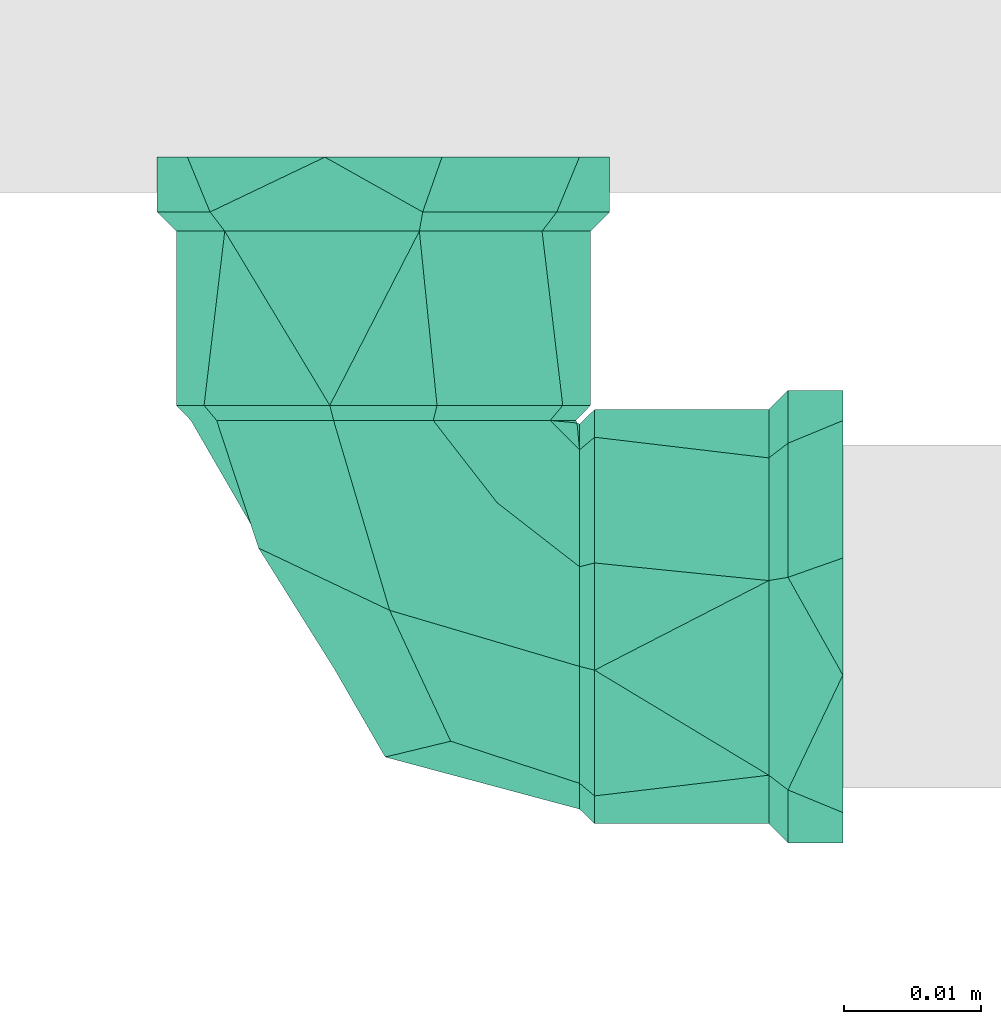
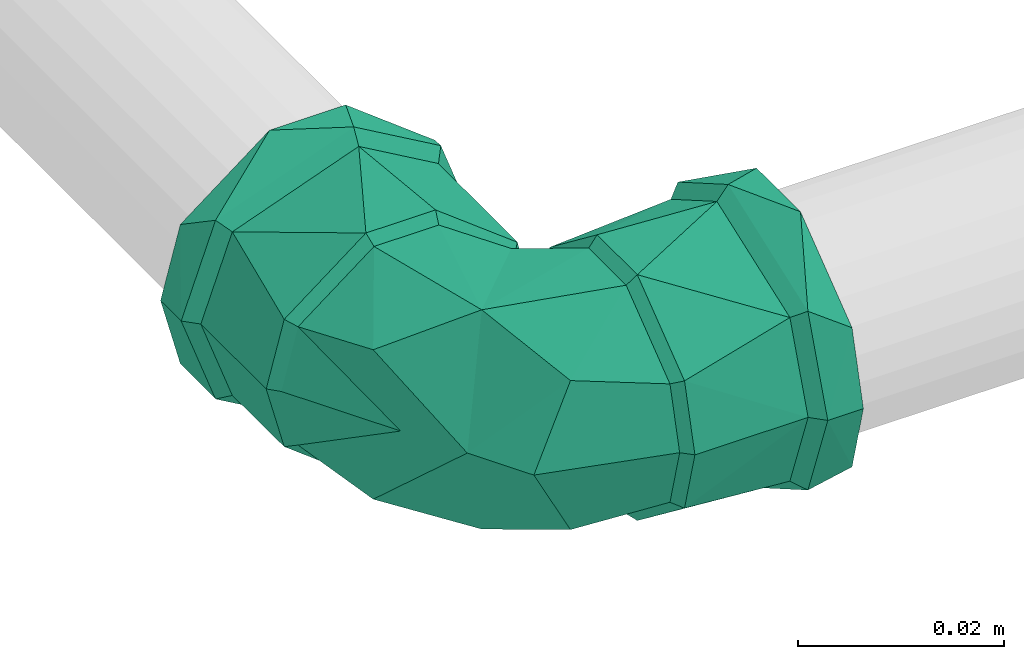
# One storey, part 321 of 589: 1 flow fitting.
"""IFC2X3 building model written with IfcOpenShell, lengths in millimetres."""

from ifc_helpers import new_model, entity, si_unit, converted_unit, derived_unit, direction, frame, origin, place, context, subcontext, project, spatial, faceted_brep, source, transform, mapped, material, type_object, type_shapes, element, save


model = new_model("IFC2X3")

# Units and contexts
model_context = context("Model", 3, precision=0.01, world=origin(), true_north=direction((6.123031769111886e-17, 1.0)))
body_context = subcontext(model_context, "Body", "Model", "MODEL_VIEW")
ifc_project = project(units=[si_unit("LENGTHUNIT", "METRE", prefix="MILLI"), si_unit("AREAUNIT", "SQUARE_METRE"), si_unit("VOLUMEUNIT", "CUBIC_METRE"), converted_unit("PLANEANGLEUNIT", "DEGREE", entity("IfcRatioMeasure", 0.017453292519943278), si_unit("PLANEANGLEUNIT", "RADIAN"), dimensions=[0, 0, 0, 0, 0, 0, 0]), si_unit("MASSUNIT", "GRAM", prefix="KILO"), derived_unit("MASSDENSITYUNIT", [(si_unit("MASSUNIT", "GRAM", prefix="KILO"), 1), (si_unit("LENGTHUNIT", "METRE"), -3)]), derived_unit("IONCONCENTRATIONUNIT", [(si_unit("MASSUNIT", "GRAM", prefix="KILO"), 1), (si_unit("LENGTHUNIT", "METRE"), -3)]), derived_unit("MOMENTOFINERTIAUNIT", [(si_unit("LENGTHUNIT", "METRE"), 4)]), si_unit("TIMEUNIT", "SECOND"), si_unit("FREQUENCYUNIT", "HERTZ"), si_unit("THERMODYNAMICTEMPERATUREUNIT", "DEGREE_CELSIUS"), derived_unit("THERMALTRANSMITTANCEUNIT", [(si_unit("MASSUNIT", "GRAM", prefix="KILO"), 1), (si_unit("THERMODYNAMICTEMPERATUREUNIT", "KELVIN"), -1), (si_unit("TIMEUNIT", "SECOND"), -3)]), derived_unit("THERMALCONDUCTANCEUNIT", [(si_unit("MASSUNIT", "GRAM", prefix="KILO"), 1), (si_unit("THERMODYNAMICTEMPERATUREUNIT", "KELVIN"), -1), (si_unit("TIMEUNIT", "SECOND"), -3), (si_unit("LENGTHUNIT", "METRE"), 1)]), derived_unit("VOLUMETRICFLOWRATEUNIT", [(si_unit("LENGTHUNIT", "METRE"), 3), (si_unit("TIMEUNIT", "SECOND"), -1)]), derived_unit("MASSFLOWRATEUNIT", [(si_unit("MASSUNIT", "GRAM", prefix="KILO"), 1), (si_unit("TIMEUNIT", "SECOND"), -1)]), derived_unit("ROTATIONALFREQUENCYUNIT", [(si_unit("TIMEUNIT", "SECOND"), -1)]), si_unit("ELECTRICCURRENTUNIT", "AMPERE"), si_unit("ELECTRICVOLTAGEUNIT", "VOLT"), si_unit("POWERUNIT", "WATT"), si_unit("FORCEUNIT", "NEWTON", prefix="KILO"), si_unit("ILLUMINANCEUNIT", "LUX"), si_unit("LUMINOUSFLUXUNIT", "LUMEN"), si_unit("LUMINOUSINTENSITYUNIT", "CANDELA"), derived_unit("USERDEFINED", [(si_unit("MASSUNIT", "GRAM", prefix="KILO"), -1), (si_unit("LENGTHUNIT", "METRE"), -2), (si_unit("TIMEUNIT", "SECOND"), 3), (si_unit("LUMINOUSFLUXUNIT", "LUMEN"), 1)]), derived_unit("USERDEFINED", [(si_unit("MASSUNIT", "GRAM", prefix="KILO"), 1), (si_unit("TIMEUNIT", "SECOND"), -3), (si_unit("LENGTHUNIT", "METRE"), 3), (si_unit("ELECTRICCURRENTUNIT", "AMPERE"), -2)]), derived_unit("SOUNDPOWERUNIT", [(si_unit("MASSUNIT", "GRAM", prefix="KILO"), 1), (si_unit("TIMEUNIT", "SECOND"), -3), (si_unit("LENGTHUNIT", "METRE"), 2)]), derived_unit("SOUNDPRESSUREUNIT", [(si_unit("MASSUNIT", "GRAM", prefix="KILO"), 1), (si_unit("LENGTHUNIT", "METRE"), -1), (si_unit("TIMEUNIT", "SECOND"), -2)]), derived_unit("LINEARVELOCITYUNIT", [(si_unit("LENGTHUNIT", "METRE"), 1), (si_unit("TIMEUNIT", "SECOND"), -1)]), si_unit("PRESSUREUNIT", "PASCAL"), derived_unit("USERDEFINED", [(si_unit("MASSUNIT", "GRAM", prefix="KILO"), 1), (si_unit("LENGTHUNIT", "METRE"), -2), (si_unit("TIMEUNIT", "SECOND"), -2)]), derived_unit("LINEARFORCEUNIT", [(si_unit("MASSUNIT", "GRAM", prefix="KILO"), 1), (si_unit("TIMEUNIT", "SECOND"), -2)]), derived_unit("PLANARFORCEUNIT", [(si_unit("MASSUNIT", "GRAM", prefix="KILO"), 1), (si_unit("LENGTHUNIT", "METRE"), -1), (si_unit("TIMEUNIT", "SECOND"), -2)]), derived_unit("SPECIFICHEATCAPACITYUNIT", [(si_unit("THERMODYNAMICTEMPERATUREUNIT", "KELVIN"), -1), (si_unit("LENGTHUNIT", "METRE"), 2), (si_unit("TIMEUNIT", "SECOND"), -2)]), derived_unit("HEATINGVALUEUNIT", [(si_unit("LENGTHUNIT", "METRE"), 2), (si_unit("TIMEUNIT", "SECOND"), -2)]), derived_unit("VAPORPERMEABILITYUNIT", [(si_unit("LENGTHUNIT", "METRE"), -1), (si_unit("TIMEUNIT", "SECOND"), 1)]), derived_unit("DYNAMICVISCOSITYUNIT", [(si_unit("MASSUNIT", "GRAM", prefix="KILO"), 1), (si_unit("TIMEUNIT", "SECOND"), -1), (si_unit("LENGTHUNIT", "METRE"), -1)]), derived_unit("THERMALEXPANSIONCOEFFICIENTUNIT", [(si_unit("THERMODYNAMICTEMPERATUREUNIT", "KELVIN"), -1)]), derived_unit("MODULUSOFELASTICITYUNIT", [(si_unit("MASSUNIT", "GRAM", prefix="KILO"), 1), (si_unit("LENGTHUNIT", "METRE"), -1), (si_unit("TIMEUNIT", "SECOND"), -2)]), derived_unit("ISOTHERMALMOISTURECAPACITYUNIT", [(si_unit("LENGTHUNIT", "METRE"), 3), (si_unit("MASSUNIT", "GRAM", prefix="KILO"), -1)]), derived_unit("MOISTUREDIFFUSIVITYUNIT", [(si_unit("TIMEUNIT", "SECOND"), -1), (si_unit("LENGTHUNIT", "METRE"), 2)])], contexts=[model_context])

# Site, building, storey
site_placement = place(None, origin())
site = spatial("IfcSite", under=ifc_project, at=site_placement, Name="Default", CompositionType="ELEMENT")
building_placement = place(site_placement, origin())
building = spatial("IfcBuilding", under=site, at=building_placement, CompositionType="ELEMENT")
storey_placement = place(building_placement, frame((0.0, 0.0, 100.0)))
storey = spatial("IfcBuildingStorey", under=building, at=storey_placement, Name="TÉRREO", CompositionType="ELEMENT", Elevation=100.0)

# Flow fitting
ifc_material = material(Name="PVC Marrom")
pipe_fitting_type = type_object("IfcPipeFittingType", Name="PVC Marrom Soldável_Joelho 45°_90°_Rodrigo MEP:Joelho", PredefinedType="NOTDEFINED", material=ifc_material)
shared_shape = source(origin(), body_context, "Body", "Brep", [
    faceted_brep([(3.908167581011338, 15.40000000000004, 14.585479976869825), (13.076983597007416, 15.40000000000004, 7.549999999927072), (15.099999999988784, 15.40000000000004, 0.0), (13.076983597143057, 15.40000000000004, -7.55000000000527), (3.9081675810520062, 15.40000000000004, -14.585479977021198), (-3.9081675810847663, 15.40000000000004, -14.585479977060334), (-13.076983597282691, 15.40000000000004, -7.550000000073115), (-15.100000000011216, 15.40000000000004, 0.0), (-13.076983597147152, 15.40000000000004, 7.549999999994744), (-3.908167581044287, 15.40000000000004, 14.585479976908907), (-3.633819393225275, 14.30000000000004, 13.561598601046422), (-12.158996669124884, 14.30000000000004, 7.0199999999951), (-14.040000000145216, 14.30000000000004, 0.0), (-12.158996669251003, 14.30000000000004, -7.020000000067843), (-3.6338193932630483, 14.30000000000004, -13.561598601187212), (3.6338193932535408, 14.30000000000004, -13.561598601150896), (12.158996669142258, 14.30000000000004, -7.020000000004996), (14.039999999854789, 14.30000000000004, 0.0), (12.158996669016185, 14.30000000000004, 7.0199999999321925), (3.6338193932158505, 14.30000000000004, 13.561598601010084)], [[[0, 1, 2, 3, 4, 5, 6, 7, 8, 9]], [[10, 11, 12, 13, 14, 15, 16, 17, 18, 19]], [[3, 17, 16]], [[4, 3, 16, 15]], [[3, 2, 17]], [[15, 14, 5, 4]], [[6, 5, 14, 13]], [[7, 13, 12]], [[7, 6, 13]], [[8, 12, 11]], [[9, 8, 11, 10]], [[8, 7, 12]], [[10, 19, 0, 9]], [[1, 0, 19, 18]], [[2, 18, 17]], [[2, 1, 18]]]),
    faceted_brep([(-15.399999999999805, 3.908167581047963, 14.585479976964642), (-15.399999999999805, 13.076983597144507, 7.549999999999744), (-15.399999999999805, 15.100000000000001, 0.0), (-15.399999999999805, 13.076983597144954, -7.54999999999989), (-15.399999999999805, 3.9081675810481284, -14.58547997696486), (-15.399999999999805, -3.9081675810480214, -14.585479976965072), (-15.399999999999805, -13.0769835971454, -7.550000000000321), (-15.399999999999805, -15.099999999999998, 0.0), (-15.399999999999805, -13.076983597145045, 7.550000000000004), (-15.399999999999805, -3.908167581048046, 14.585479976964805), (-14.299999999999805, 12.158996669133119, 7.019999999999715), (-14.299999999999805, 3.6338193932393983, 13.561598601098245), (-14.299999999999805, -3.633819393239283, 13.56159860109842), (-14.299999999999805, -12.15899666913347, 7.020000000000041), (-14.299999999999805, -14.040000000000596, 0.0), (-14.299999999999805, -12.158996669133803, -7.020000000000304), (-14.299999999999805, -3.63381939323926, -13.561598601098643), (-14.299999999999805, 3.6338193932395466, -13.56159860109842), (-14.299999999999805, 12.158996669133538, -7.019999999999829), (-14.299999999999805, 14.03999999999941, 0.0)], [[[0, 1, 2, 3, 4, 5, 6, 7, 8, 9]], [[10, 11, 12, 13, 14, 15, 16, 17, 18, 19]], [[3, 2, 19, 18]], [[4, 3, 18, 17]], [[17, 16, 5, 4]], [[6, 5, 16, 15]], [[7, 6, 15, 14]], [[8, 7, 14, 13]], [[9, 8, 13, 12]], [[12, 11, 0, 9]], [[1, 0, 11, 10]], [[2, 1, 10, 19]]]),
    faceted_brep([(-33.4999999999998, -4.2705142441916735, -15.937776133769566), (-33.4999999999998, -6.250000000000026, -10.825317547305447), (-33.4999999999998, 0.0, -12.5), (-33.4999999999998, -14.289419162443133, -8.25000000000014), (-33.4999999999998, 4.270514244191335, -15.937776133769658), (-33.4999999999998, -12.074072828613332, -3.23523806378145), (-33.4999999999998, -16.499999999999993, 0.0), (-33.4999999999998, -12.074072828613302, 3.2352380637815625), (-33.4999999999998, -14.289419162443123, 8.249999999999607), (-33.4999999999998, -6.249999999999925, 10.825317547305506), (-33.4999999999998, -4.27051424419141, 15.937776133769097), (-33.4999999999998, 0.0, 12.5), (-33.4999999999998, 4.270514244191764, 15.937776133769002), (-33.4999999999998, 6.249999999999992, 10.825317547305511), (-33.4999999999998, 14.28941916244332, 8.249999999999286), (-33.4999999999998, 12.074072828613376, 3.2352380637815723), (-33.4999999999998, 16.500000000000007, 0.0), (-33.4999999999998, 12.074072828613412, -3.235238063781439), (-33.4999999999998, 14.289419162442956, -8.250000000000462), (-33.4999999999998, 6.250000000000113, -10.82531754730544), (-29.499999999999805, 16.5, 0.0), (-29.500000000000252, 12.639142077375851, 10.606700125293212), (-29.50000000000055, 2.8633833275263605, 16.249647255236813), (-29.50000000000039, -12.64180232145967, 10.603529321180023), (-29.499999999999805, -16.499999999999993, 0.0), (-29.500000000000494, -4.889209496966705, 13.426588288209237), (-29.49999999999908, -12.641802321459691, -10.603529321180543), (-29.49999999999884, -2.8674593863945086, -16.24892847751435), (-29.499999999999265, 12.639142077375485, -10.606700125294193), (-29.499999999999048, 4.885841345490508, -13.427814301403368), (-28.099999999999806, -15.099999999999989, 0.0), (-28.10000000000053, -11.56916454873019, 9.703835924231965), (-28.100000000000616, -4.474367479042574, 12.287362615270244), (-28.1000000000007, 2.6204295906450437, 14.870889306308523), (-28.100000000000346, 11.566730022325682, 9.706737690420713), (-28.09999999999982, 15.099999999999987, 0.0), (-28.099999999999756, 11.566730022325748, -9.706737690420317), (-28.09999999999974, 4.4712851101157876, -12.28848460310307), (-28.09999999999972, -2.6241598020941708, -14.870231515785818), (-28.09999999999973, -11.569164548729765, -9.703835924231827), (-15.399999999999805, 0.0, -12.5), (-15.399999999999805, -6.250000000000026, -10.825317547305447), (-15.399999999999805, -3.908167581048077, -14.585479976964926), (-15.399999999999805, 3.9081675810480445, -14.585479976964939), (-15.399999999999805, 6.250000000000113, -10.82531754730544), (-15.399999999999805, -13.076983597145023, -7.549999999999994), (-15.399999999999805, -12.074072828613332, -3.23523806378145), (-15.399999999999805, -15.099999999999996, 0.0), (-15.399999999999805, -12.074072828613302, 3.2352380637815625), (-15.399999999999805, -13.076983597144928, 7.550000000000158), (-15.399999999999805, -6.249999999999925, 10.825317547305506), (-15.399999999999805, -3.9081675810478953, 14.585479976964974), (-15.399999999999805, 0.0, 12.5), (-15.399999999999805, 3.9081675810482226, 14.58547997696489), (-15.399999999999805, 6.249999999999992, 10.825317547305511), (-15.399999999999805, 13.076983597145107, 7.549999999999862), (-15.399999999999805, 12.074072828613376, 3.2352380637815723), (-15.399999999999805, 15.100000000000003, 0.0), (-15.399999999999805, 12.074072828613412, -3.235238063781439), (-15.399999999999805, 13.076983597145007, -7.550000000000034)], [[[0, 1, 2]], [[1, 0, 3]], [[2, 4, 0]], [[3, 5, 1]], [[3, 6, 5]], [[5, 6, 7]], [[8, 7, 6]], [[7, 8, 9]], [[10, 9, 8]], [[9, 10, 11]], [[11, 10, 12]], [[12, 13, 11]], [[14, 13, 12]], [[13, 14, 15]], [[16, 15, 14]], [[16, 17, 15]], [[18, 17, 16]], [[19, 17, 18]], [[19, 18, 4]], [[4, 2, 19]], [[16, 14, 20]], [[14, 21, 20]], [[21, 14, 12]], [[21, 12, 22]], [[23, 10, 8]], [[24, 8, 6]], [[10, 23, 25, 22]], [[23, 8, 24]], [[10, 22, 12]], [[6, 3, 24]], [[3, 26, 24]], [[26, 3, 0]], [[26, 0, 27]], [[28, 4, 18]], [[20, 18, 16]], [[4, 28, 29, 27]], [[28, 18, 20]], [[4, 27, 0]], [[30, 31, 23, 24]], [[31, 32, 33, 22, 25, 23]], [[34, 35, 20, 21]], [[34, 21, 22, 33]], [[35, 36, 28, 20]], [[36, 37, 38, 27, 29, 28]], [[39, 30, 24, 26]], [[39, 26, 27, 38]], [[40, 41, 42]], [[42, 43, 40]], [[44, 40, 43]], [[45, 42, 41]], [[41, 46, 45]], [[46, 47, 45]], [[48, 47, 46]], [[47, 48, 49]], [[50, 49, 48]], [[49, 50, 51]], [[52, 51, 50]], [[53, 51, 52]], [[52, 54, 53]], [[53, 54, 55]], [[56, 55, 54]], [[55, 56, 57]], [[56, 58, 57]], [[59, 58, 44]], [[57, 58, 59]], [[43, 59, 44]], [[35, 34, 55]], [[35, 55, 57]], [[55, 34, 53]], [[34, 33, 53]], [[51, 33, 32, 31]], [[49, 31, 30]], [[31, 49, 51]], [[49, 30, 47]], [[33, 51, 53]], [[30, 39, 45]], [[30, 45, 47]], [[45, 39, 42]], [[39, 38, 42]], [[43, 38, 37, 36]], [[59, 36, 35]], [[36, 59, 43]], [[59, 35, 57]], [[38, 43, 42]], [[9, 11, 52, 50]], [[7, 9, 50, 48]], [[48, 46, 5, 7]], [[1, 5, 46, 41]], [[2, 1, 41, 40]], [[19, 2, 40, 44]], [[17, 19, 44, 58]], [[58, 56, 15, 17]], [[13, 15, 56, 54]], [[11, 13, 54, 52]]]),
    faceted_brep([(-14.299999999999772, -3.6338193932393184, -13.561598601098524), (-14.299999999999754, -12.158996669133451, -7.020000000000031), (-14.29999999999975, -14.039999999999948, 0.0), (-14.299999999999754, -12.158996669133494, 7.019999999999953), (-14.299999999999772, -3.6338193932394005, 13.561598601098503), (-14.299999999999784, 3.633819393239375, 13.561598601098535), (-14.299999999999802, 12.158996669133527, 7.0200000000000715), (-14.299999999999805, 14.04000000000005, 0.0), (-14.299999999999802, 12.158996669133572, -7.019999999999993), (-14.299999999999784, 3.63381939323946, -13.561598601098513), (3.633819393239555, 14.29999999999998, -13.561598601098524), (-3.633819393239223, 14.300000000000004, -13.561598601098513), (-12.158996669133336, 14.300000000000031, -7.019999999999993), (-14.039999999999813, 14.300000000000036, 0.0), (-12.158996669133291, 14.300000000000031, 7.0200000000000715), (-3.6338193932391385, 14.300000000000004, 13.561598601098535), (3.6338193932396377, 14.29999999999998, 13.561598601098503), (12.158996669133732, 14.299999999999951, 7.019999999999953), (14.040000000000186, 14.299999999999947, 0.0), (12.158996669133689, 14.299999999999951, -7.020000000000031), (-0.45476175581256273, 0.4547603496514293, 13.009299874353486), (-4.991226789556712, -9.102895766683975, 8.866254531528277), (-2.689013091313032, -7.336393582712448, 0.0), (3.7770734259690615, -3.6031967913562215, 0.0), (9.09033094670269, 4.905775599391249, 8.841582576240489), (10.243159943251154, 0.13000000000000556, 0.0), (-14.116152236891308, 14.116152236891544, 0.0), (-8.296884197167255, 8.29688403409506, 12.78130953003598), (-0.454761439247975, 0.45476027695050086, -13.009299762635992), (-8.296884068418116, 8.296883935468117, -12.78130960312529), (9.090330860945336, 4.90577564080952, -8.84158269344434), (-4.991226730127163, -9.10289574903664, -8.866254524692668)], [[[0, 1, 2, 3, 4, 5, 6, 7, 8, 9]], [[10, 11, 12, 13, 14, 15, 16, 17, 18, 19]], [[4, 20, 5]], [[21, 3, 22]], [[20, 4, 21]], [[21, 22, 23]], [[17, 24, 25]], [[26, 6, 14]], [[23, 20, 21]], [[26, 7, 6]], [[6, 5, 27]], [[3, 2, 22]], [[20, 23, 24]], [[25, 18, 17]], [[20, 27, 5]], [[16, 20, 24]], [[17, 16, 24]], [[6, 27, 14]], [[26, 14, 13]], [[21, 4, 3]], [[27, 15, 14]], [[27, 20, 15]], [[23, 25, 24]], [[15, 20, 16]], [[8, 7, 26]], [[28, 29, 11]], [[28, 10, 30]], [[8, 12, 29]], [[31, 22, 1]], [[31, 23, 22]], [[28, 9, 29]], [[19, 30, 10]], [[0, 28, 31]], [[1, 22, 2]], [[8, 26, 12]], [[12, 11, 29]], [[8, 29, 9]], [[31, 1, 0]], [[10, 28, 11]], [[30, 19, 25]], [[0, 9, 28]], [[19, 18, 25]], [[25, 23, 30]], [[23, 31, 28]], [[30, 23, 28]], [[12, 26, 13]]]),
    faceted_brep([(0.0, 15.40000000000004, -12.5), (-6.249999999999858, 15.40000000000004, -10.825317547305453), (-3.908167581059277, 15.40000000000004, -14.585479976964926), (3.9081675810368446, 15.40000000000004, -14.585479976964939), (6.250000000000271, 15.40000000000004, -10.82531754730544), (-13.076983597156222, 15.40000000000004, -7.549999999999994), (-12.07407282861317, 15.40000000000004, -3.235238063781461), (-15.100000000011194, 15.40000000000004, 0.0), (-12.074072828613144, 15.40000000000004, 3.2352380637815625), (-13.076983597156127, 15.40000000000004, 7.550000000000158), (-6.249999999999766, 15.40000000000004, 10.825317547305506), (-3.9081675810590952, 15.40000000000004, 14.585479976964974), (0.0, 15.40000000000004, 12.5), (3.9081675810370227, 15.40000000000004, 14.58547997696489), (6.250000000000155, 15.40000000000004, 10.825317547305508), (13.076983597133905, 15.40000000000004, 7.549999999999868), (12.074072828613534, 15.40000000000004, 3.2352380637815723), (15.099999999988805, 15.40000000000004, 0.0), (12.07407282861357, 15.40000000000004, -3.235238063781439), (13.07698359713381, 15.40000000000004, -7.550000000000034), (15.099999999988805, 28.10000000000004, 0.0), (11.56673002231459, 28.100000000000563, 9.706737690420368), (4.471285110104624, 28.10000000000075, 12.288484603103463), (-2.624159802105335, 28.100000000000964, 14.870231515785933), (-11.569164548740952, 28.10000000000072, 9.703835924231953), (-15.100000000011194, 28.10000000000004, 0.0), (-11.569164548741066, 28.10000000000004, -9.703835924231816), (-4.474367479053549, 28.10000000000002, -12.287362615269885), (2.6204295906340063, 28.099999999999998, -14.870889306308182), (11.566730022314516, 28.10000000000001, -9.706737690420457), (-12.639142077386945, 29.50000000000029, 10.606700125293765), (-16.50000000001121, 29.500000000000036, 0.0), (-2.8633833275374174, 29.50000000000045, 16.249647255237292), (12.641802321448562, 29.500000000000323, 10.603529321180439), (4.889209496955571, 29.500000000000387, 13.426588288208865), (16.499999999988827, 29.50000000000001, 0.0), (12.64180232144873, 29.500000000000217, -10.603529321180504), (2.867459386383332, 29.500000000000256, -16.24892847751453), (-12.639142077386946, 29.500000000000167, -10.606700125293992), (-4.885841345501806, 29.500000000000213, -13.427814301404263), (-4.270514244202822, 33.50000000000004, -15.937776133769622), (-6.249999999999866, 33.50000000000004, -10.825317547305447), (0.0, 33.50000000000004, -12.5), (-14.289419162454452, 33.50000000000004, -8.249999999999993), (4.270514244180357, 33.50000000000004, -15.937776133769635), (-12.074072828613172, 33.50000000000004, -3.23523806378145), (-16.50000000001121, 33.50000000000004, 0.0), (-12.074072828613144, 33.50000000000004, 3.2352380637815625), (-14.28941916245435, 33.50000000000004, 8.250000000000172), (-6.2499999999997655, 33.50000000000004, 10.825317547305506), (-4.270514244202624, 33.50000000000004, 15.937776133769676), (0.0, 33.50000000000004, 12.5), (4.270514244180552, 33.50000000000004, 15.937776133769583), (6.250000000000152, 33.50000000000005, 10.825317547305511), (14.289419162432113, 33.50000000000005, 8.249999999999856), (12.074072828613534, 33.50000000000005, 3.2352380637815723), (16.49999999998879, 33.50000000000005, 0.0), (12.07407282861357, 33.50000000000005, -3.235238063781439), (14.289419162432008, 33.50000000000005, -8.250000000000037), (6.250000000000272, 33.50000000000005, -10.82531754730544)], [[[0, 1, 2]], [[2, 3, 0]], [[4, 0, 3]], [[5, 2, 1]], [[1, 6, 5]], [[6, 7, 5]], [[8, 7, 6]], [[7, 8, 9]], [[10, 9, 8]], [[9, 10, 11]], [[12, 11, 10]], [[13, 11, 12]], [[12, 14, 13]], [[13, 14, 15]], [[16, 15, 14]], [[15, 16, 17]], [[16, 18, 17]], [[19, 18, 4]], [[17, 18, 19]], [[3, 19, 4]], [[20, 21, 15]], [[20, 15, 17]], [[15, 21, 13]], [[13, 21, 22, 23]], [[11, 23, 24]], [[9, 24, 25]], [[24, 9, 11]], [[9, 25, 7]], [[23, 11, 13]], [[25, 26, 5]], [[25, 5, 7]], [[5, 26, 2]], [[2, 26, 27, 28]], [[3, 28, 29]], [[19, 29, 20]], [[29, 19, 3]], [[19, 20, 17]], [[28, 3, 2]], [[24, 23, 30]], [[25, 24, 31]], [[31, 24, 30]], [[23, 32, 30]], [[21, 20, 33]], [[21, 33, 34]], [[22, 32, 23]], [[35, 33, 20]], [[32, 22, 34]], [[22, 21, 34]], [[20, 29, 36]], [[36, 35, 20]], [[37, 36, 29]], [[38, 39, 27]], [[29, 28, 37]], [[26, 25, 31]], [[38, 27, 26]], [[38, 26, 31]], [[28, 39, 37]], [[39, 28, 27]], [[40, 41, 42]], [[41, 40, 43]], [[42, 44, 40]], [[43, 45, 41]], [[43, 46, 45]], [[45, 46, 47]], [[48, 47, 46]], [[47, 48, 49]], [[50, 49, 48]], [[49, 50, 51]], [[51, 50, 52]], [[52, 53, 51]], [[54, 53, 52]], [[53, 54, 55]], [[56, 55, 54]], [[56, 57, 55]], [[58, 57, 56]], [[59, 57, 58]], [[59, 58, 44]], [[44, 42, 59]], [[56, 54, 35]], [[54, 33, 35]], [[33, 54, 52]], [[52, 32, 34, 33]], [[30, 50, 48]], [[31, 48, 46]], [[50, 30, 32]], [[30, 48, 31]], [[50, 32, 52]], [[46, 43, 31]], [[43, 38, 31]], [[38, 43, 40]], [[40, 37, 39, 38]], [[36, 44, 58]], [[35, 58, 56]], [[44, 36, 37]], [[36, 58, 35]], [[44, 37, 40]], [[49, 51, 12, 10]], [[47, 49, 10, 8]], [[8, 6, 45, 47]], [[41, 45, 6, 1]], [[42, 41, 1, 0]], [[59, 42, 0, 4]], [[57, 59, 4, 18]], [[18, 16, 55, 57]], [[53, 55, 16, 14]], [[51, 53, 14, 12]]]),
])
type_shapes(pipe_fitting_type, [shared_shape])
flow_fitting_placement = place(storey_placement, frame((-68.44113287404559, -7747.531283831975, 2970.0), z_axis=(0.0, 0.0, 1.0), x_axis=(0.0, -1.0, 0.0)))
element("IfcFlowFitting", 1, at=flow_fitting_placement, inside=storey, type_object=pipe_fitting_type, material=ifc_material, Name="PVC Marrom Soldável_Joelho 45°_90°_Rodrigo MEP:Joelho", ObjectType="PVC Marrom Soldável_Joelho 45°_90°_Rodrigo MEP:Joelho", context=body_context, shape_type="MappedRepresentation", body=[
    mapped(shared_shape, transform((0.0, 0.0, 0.0), scale=1.0)),
])

save(model, "model.ifc")
